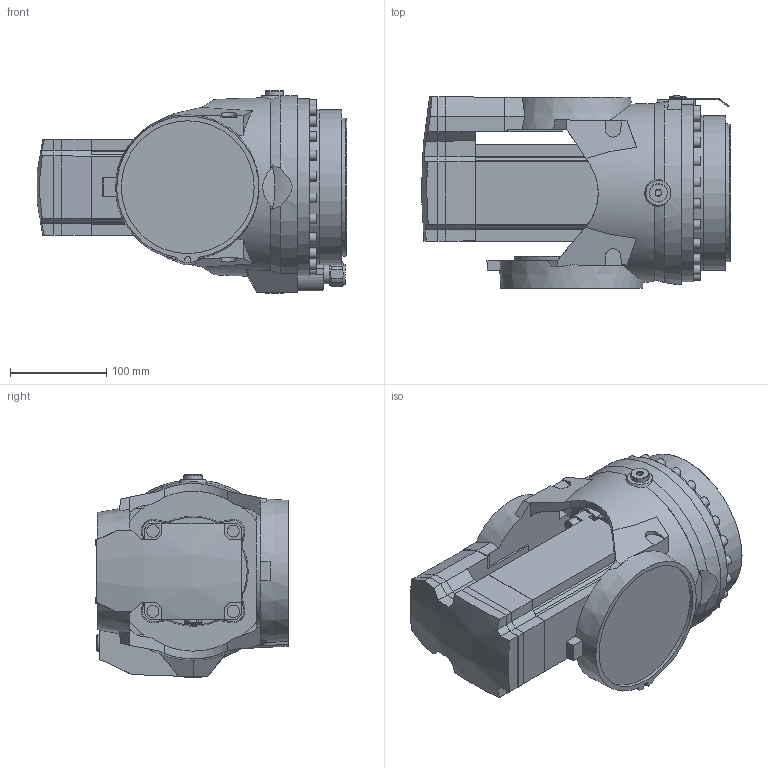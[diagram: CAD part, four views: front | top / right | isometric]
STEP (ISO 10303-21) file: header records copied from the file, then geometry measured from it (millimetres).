
FILE_DESCRIPTION (( 'STEP AP214' ), '1' );
FILE_NAME ('IRB6750S_All-390_OC_01_LINK05_CAD.step', '2026-05-13T05:29:05', ( '' ), ( '' ), 'SwSTEP 2.0', 'SolidWorks 2024', '' );
FILE_SCHEMA (( 'AUTOMOTIVE_DESIGN' ));
Length unit declared in the file: millimetre
Products named in the file (1): IRB6750S_All-390_OC_01_LINK05_CAD
Bounding box: 321.19 x 200.3 x 210 mm (x, y, z)
Volume: 5850360.1 mm3; surface area: 374965.9 mm2
Topology: 1 solids, 2 shells, 559 faces, 1452 edges, 949 vertices
Faces by surface type: plane 367, cylinder 101, cone 58, bspline 18, torus 15
Full cylindrical faces by diameter (mm): 3.3 x1, 6.351 x2, 10 x2, 10.22 x24, 12.5 x2, 13 x2, 17.9 x1, 18 x1, 19 x2, 20 x1, 22 x1, 92 x1, 138 x1, 143 x1, 160.8 x1, 161 x1, 184 x1
Entity records: 25240 total; most frequent: CARTESIAN_POINT 6175, ORIENTED_EDGE 2744, DIRECTION 2445, EDGE_CURVE 1372, VERTEX_POINT 933, AXIS2_PLACEMENT_3D 837, VECTOR 771, LINE 771
